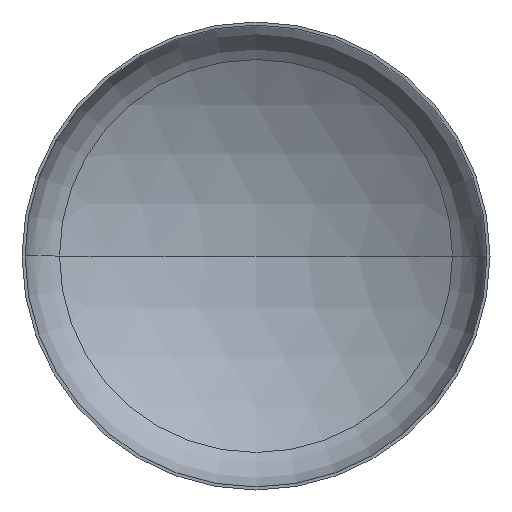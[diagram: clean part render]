
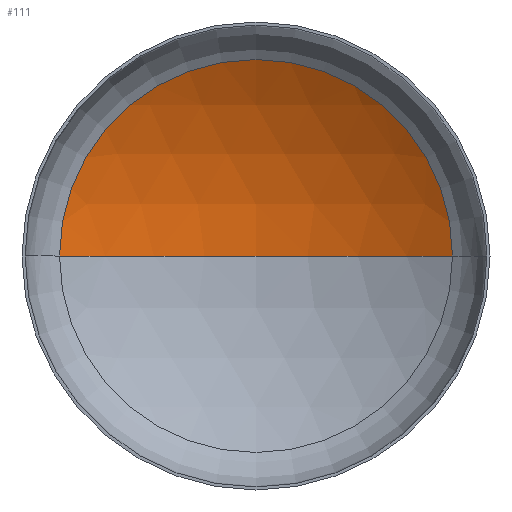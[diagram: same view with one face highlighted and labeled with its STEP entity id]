
A CAD part, front view. The second image highlights one B-rep face of the part: STEP entity #111.
In plain terms, the highlighted spherical face has radius 1600 mm.
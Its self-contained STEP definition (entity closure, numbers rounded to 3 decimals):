
#12 = AXIS2_PLACEMENT_3D ( 'NONE', #251, #33, #46 ) ;
#32 = VERTEX_POINT ( 'NONE', #261 ) ;
#33 = DIRECTION ( 'NONE',  ( 0., 0., 1. ) ) ;
#46 = DIRECTION ( 'NONE',  ( 1., 0., 0. ) ) ;
#51 = SPHERICAL_SURFACE ( 'NONE', #141, 1600. ) ;
#62 = AXIS2_PLACEMENT_3D ( 'NONE', #201, #200, #199 ) ;
#66 = CIRCLE ( 'NONE', #12, 1600. ) ;
#80 = AXIS2_PLACEMENT_3D ( 'NONE', #220, #218, #250 ) ;
#111 = ADVANCED_FACE ( 'NONE', ( #310 ), #51, .F. ) ;
#114 = CIRCLE ( 'NONE', #62, 1600. ) ;
#119 = VERTEX_POINT ( 'NONE', #298 ) ;
#141 = AXIS2_PLACEMENT_3D ( 'NONE', #196, #306, #302 ) ;
#184 = EDGE_CURVE ( 'NONE', #410, #32, #282, .T. ) ;
#188 = EDGE_CURVE ( 'NONE', #119, #410, #114, .T. ) ;
#196 = CARTESIAN_POINT ( 'NONE',  ( 0., -1058.076, 0. ) ) ;
#199 = DIRECTION ( 'NONE',  ( -1., 0., 0. ) ) ;
#200 = DIRECTION ( 'NONE',  ( 0., 0., -1. ) ) ;
#201 = CARTESIAN_POINT ( 'NONE',  ( 0., -1058.076, 0. ) ) ;
#218 = DIRECTION ( 'NONE',  ( 0., -1., 0. ) ) ;
#220 = CARTESIAN_POINT ( 'NONE',  ( 0., 303.879, 0. ) ) ;
#250 = DIRECTION ( 'NONE',  ( 1., 0., 0. ) ) ;
#251 = CARTESIAN_POINT ( 'NONE',  ( 0., -1058.076, 0. ) ) ;
#261 = CARTESIAN_POINT ( 'NONE',  ( -839.69, 303.879, 0. ) ) ;
#265 = ORIENTED_EDGE ( 'NONE', *, *, #184, .T. ) ;
#269 = EDGE_LOOP ( 'NONE', ( #335, #275, #265 ) ) ;
#275 = ORIENTED_EDGE ( 'NONE', *, *, #188, .T. ) ;
#282 = CIRCLE ( 'NONE', #80, 839.69 ) ;
#298 = CARTESIAN_POINT ( 'NONE',  ( 0., 541.924, 0. ) ) ;
#302 = DIRECTION ( 'NONE',  ( -1., 0., 0. ) ) ;
#306 = DIRECTION ( 'NONE',  ( 0., 0., -1. ) ) ;
#310 = FACE_OUTER_BOUND ( 'NONE', #269, .T. ) ;
#335 = ORIENTED_EDGE ( 'NONE', *, *, #364, .F. ) ;
#364 = EDGE_CURVE ( 'NONE', #119, #32, #66, .T. ) ;
#405 = CARTESIAN_POINT ( 'NONE',  ( 839.69, 303.879, 0. ) ) ;
#410 = VERTEX_POINT ( 'NONE', #405 ) ;
